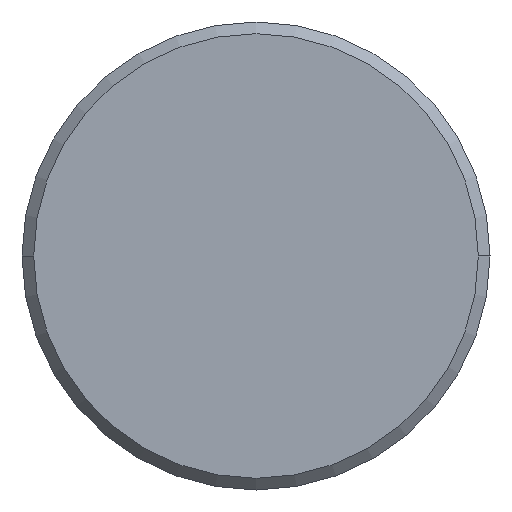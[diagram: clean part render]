
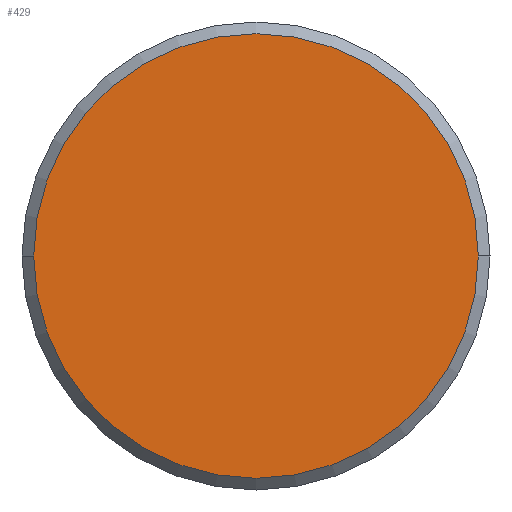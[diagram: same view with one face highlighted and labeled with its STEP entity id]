
A CAD part, left-side view. The second image highlights one B-rep face of the part: STEP entity #429.
In plain terms, the highlighted planar face has unit normal (-1, 0, 0).
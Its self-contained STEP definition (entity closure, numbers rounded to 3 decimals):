
#8 = DIRECTION ( 'NONE',  ( 0., 0., 1. ) ) ;
#38 = AXIS2_PLACEMENT_3D ( 'NONE', #274, #428, #8 ) ;
#62 = EDGE_LOOP ( 'NONE', ( #282, #376 ) ) ;
#138 = CARTESIAN_POINT ( 'NONE',  ( -46., 5.7, 0. ) ) ;
#143 = CIRCLE ( 'NONE', #467, 5.7 ) ;
#164 = DIRECTION ( 'NONE',  ( 1., 0., 0. ) ) ;
#167 = CARTESIAN_POINT ( 'NONE',  ( -46., 0., 0. ) ) ;
#168 = PLANE ( 'NONE',  #38 ) ;
#180 = VERTEX_POINT ( 'NONE', #138 ) ;
#185 = CIRCLE ( 'NONE', #384, 5.7 ) ;
#195 = FACE_OUTER_BOUND ( 'NONE', #62, .T. ) ;
#198 = CARTESIAN_POINT ( 'NONE',  ( -46., -5.7, 0. ) ) ;
#220 = EDGE_CURVE ( 'NONE', #180, #407, #143, .T. ) ;
#244 = DIRECTION ( 'NONE',  ( 1., 0., 0. ) ) ;
#253 = EDGE_CURVE ( 'NONE', #407, #180, #185, .T. ) ;
#274 = CARTESIAN_POINT ( 'NONE',  ( -46., 2.85, 0. ) ) ;
#282 = ORIENTED_EDGE ( 'NONE', *, *, #220, .F. ) ;
#308 = DIRECTION ( 'NONE',  ( 0., 1., 0. ) ) ;
#358 = DIRECTION ( 'NONE',  ( 0., 1., 0. ) ) ;
#376 = ORIENTED_EDGE ( 'NONE', *, *, #253, .F. ) ;
#384 = AXIS2_PLACEMENT_3D ( 'NONE', #393, #164, #308 ) ;
#393 = CARTESIAN_POINT ( 'NONE',  ( -46., 0., 0. ) ) ;
#407 = VERTEX_POINT ( 'NONE', #198 ) ;
#428 = DIRECTION ( 'NONE',  ( -1., 0., 0. ) ) ;
#429 = ADVANCED_FACE ( 'NONE', ( #195 ), #168, .T. ) ;
#467 = AXIS2_PLACEMENT_3D ( 'NONE', #167, #244, #358 ) ;
